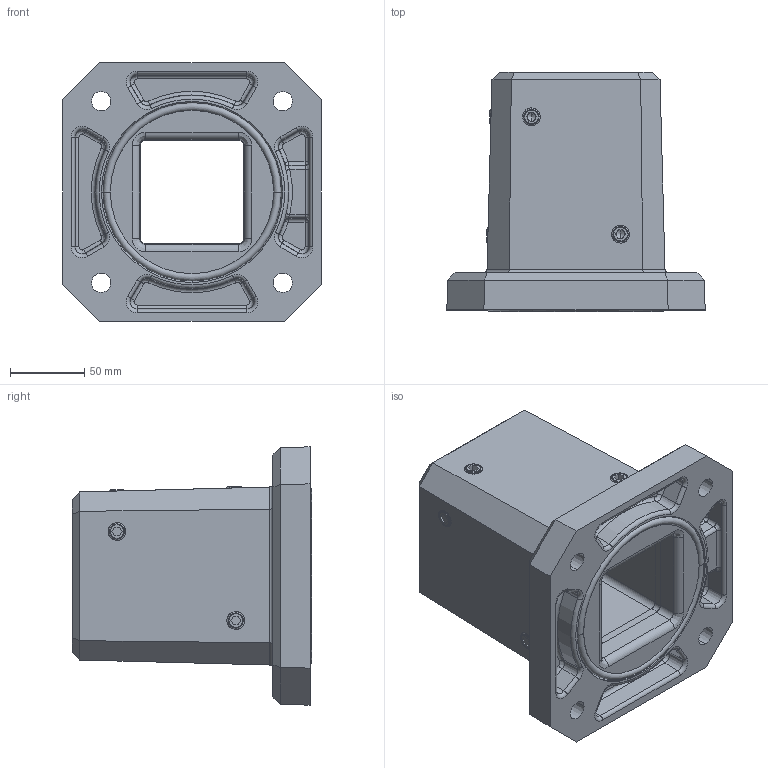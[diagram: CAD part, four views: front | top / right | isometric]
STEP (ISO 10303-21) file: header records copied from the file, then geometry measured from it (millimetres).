
FILE_DESCRIPTION((''),'2;1');
FILE_NAME('1016475000_ASM','2024-09-17T10:50:38',('Stephanie.Hoppe'),(''),'CREO PARAMETRIC BY PTC INC, 2022124','CREO PARAMETRIC BY PTC INC, 2022124','');
FILE_SCHEMA(('AUTOMOTIVE_DESIGN { 1 0 10303 214 1 1 1 1 }'));
Length unit declared in the file: millimetre
Products named in the file (6): 9324061000_AF0; 9620080000_ASM; 9263034000; 9231016000; 9231549000; 1016475000_ASM
Assembly tree (8 placements, depth 3):
  1016475000_ASM
    9620080000_ASM
      9324061000_AF0
    9263034000  x4
    9231016000
    9231549000
Bounding box: 174 x 161 x 174 mm (x, y, z)
Volume: 1326136 mm3; surface area: 205368 mm2
Topology: 7 solids, 15 shells, 388 faces, 922 edges, 546 vertices
Faces by surface type: plane 153, cylinder 100, cone 69, torus 32, bspline 30, sphere 4
Entity records: 17153 total; most frequent: CARTESIAN_POINT 2876, DIRECTION 1737, ORIENTED_EDGE 1388, PRESENTATION_STYLE_ASSIGNMENT 1050, STYLED_ITEM 1050, CURVE_STYLE 791, EDGE_CURVE 700, AXIS2_PLACEMENT_3D 660
